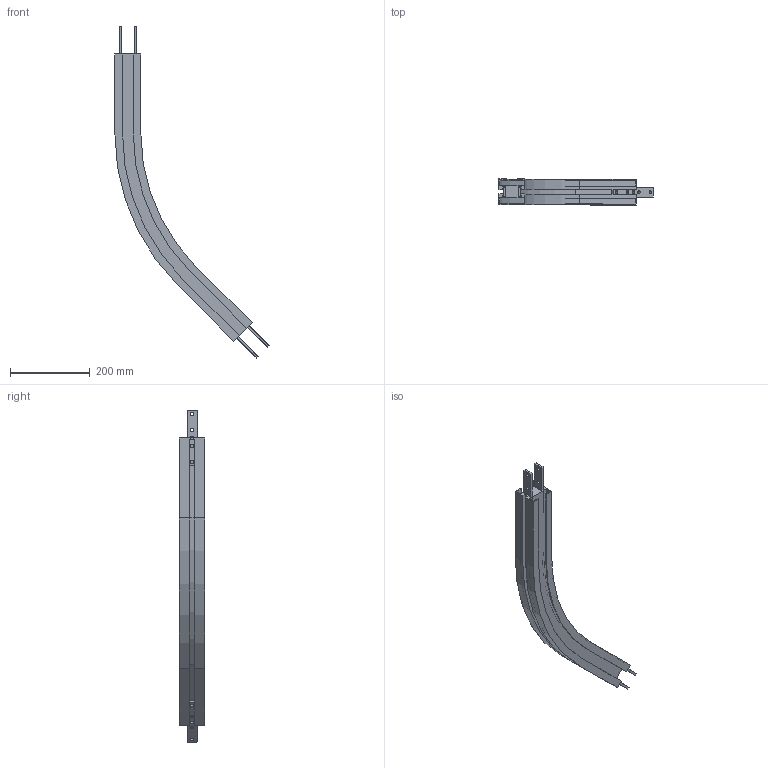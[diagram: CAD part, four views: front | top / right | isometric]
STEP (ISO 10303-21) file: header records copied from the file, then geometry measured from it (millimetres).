
FILE_DESCRIPTION (( 'STEP AP203' ), '1' );
FILE_NAME ('FSHB45R500.STEP', '2007-12-12T08:23:50', ( ' ' ), ( ' ' ), 'SwSTEP 2.0', 'SolidWorks 2008', '' );
FILE_SCHEMA (( 'CONFIG_CONTROL_DESIGN' ));
Length unit declared in the file: millimetre
Products named in the file (1): FSHB45R500
Bounding box: 385.49 x 64 x 830.1 mm (x, y, z)
Volume: 1405637.3 mm3; surface area: 490946.4 mm2
Topology: 1 solids, 1 shells, 166 faces, 460 edges, 300 vertices
Faces by surface type: plane 92, cylinder 74
Entity records: 5441 total; most frequent: DIRECTION 946, CARTESIAN_POINT 927, ORIENTED_EDGE 920, EDGE_CURVE 460, AXIS2_PLACEMENT_3D 319, LINE 308, VECTOR 308, VERTEX_POINT 300
